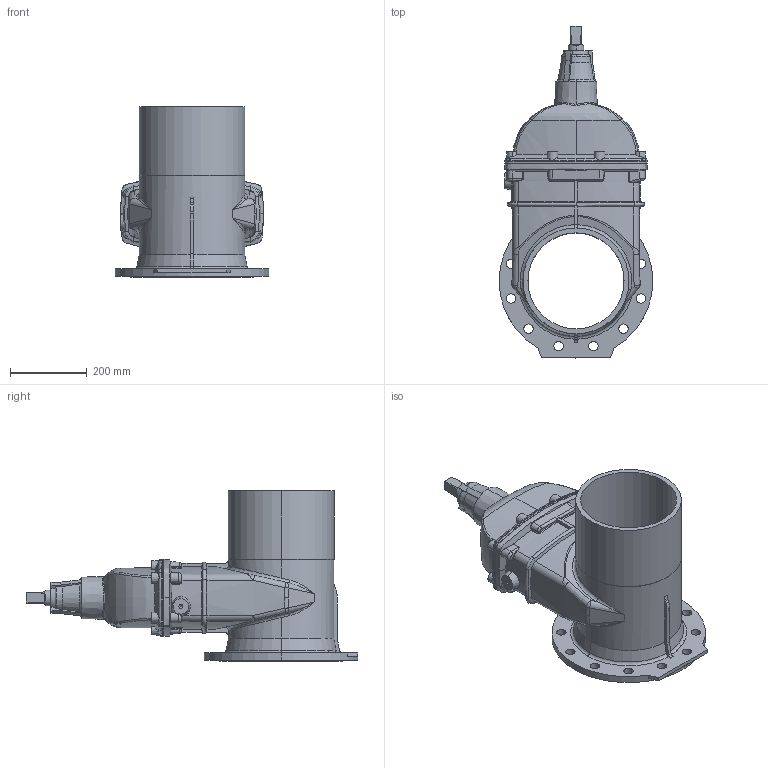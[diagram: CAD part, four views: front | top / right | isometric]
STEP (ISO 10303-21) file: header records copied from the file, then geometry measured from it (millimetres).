
FILE_DESCRIPTION (( 'STEP AP203' ), '1' );
FILE_NAME ('O_12_51_DN250_AA1_step.step', '2015-10-23T07:51:44', ( 'Windows User' ), ( 'AVK' ), 'SwSTEP 2.0', 'SolidWorks 2012', '' );
FILE_SCHEMA (( 'CONFIG_CONTROL_DESIGN' ));
Length unit declared in the file: millimetre
Products named in the file (1): O_12_51_DN250_AA1_step
Bounding box: 400 x 863.9 x 444 mm (x, y, z)
Volume: 24312840.1 mm3; surface area: 1305513.1 mm2
Topology: 1 solids, 1 shells, 466 faces, 1203 edges, 743 vertices
Faces by surface type: cone 113, plane 109, bspline 101, cylinder 90, torus 49, sphere 4
Entity records: 22542 total; most frequent: CARTESIAN_POINT 12140, ORIENTED_EDGE 2394, DIRECTION 1915, EDGE_CURVE 1197, AXIS2_PLACEMENT_3D 808, VERTEX_POINT 743, EDGE_LOOP 502, ADVANCED_FACE 466
